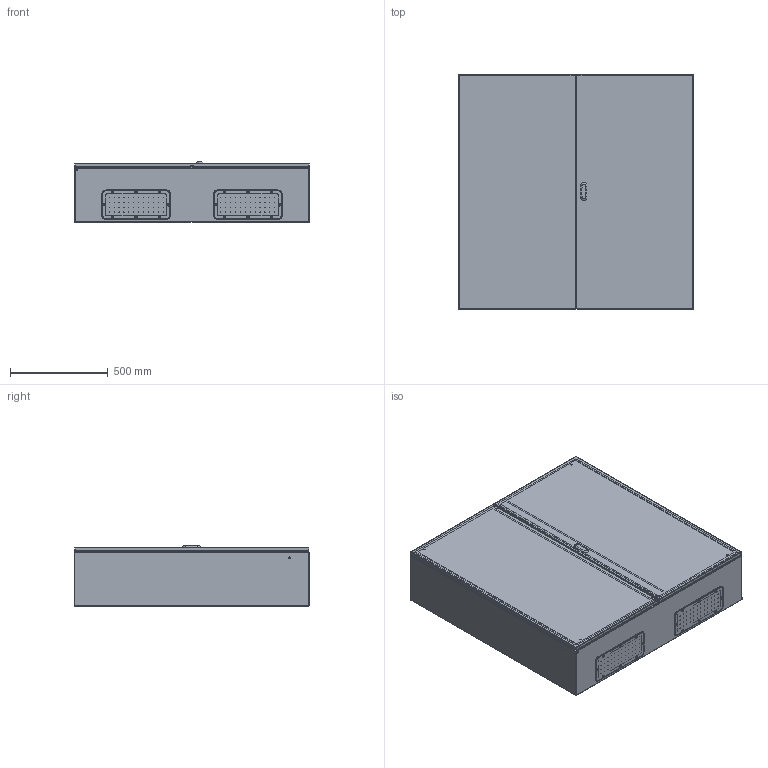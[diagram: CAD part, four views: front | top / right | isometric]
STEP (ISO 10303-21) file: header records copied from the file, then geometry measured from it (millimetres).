
FILE_DESCRIPTION(/* description */ ('STEP AP214'),/* implementation_level */ '2;1');
FILE_NAME(/* name */ 'EC121230-LOD400',/* time_stamp */ '2025-08-01T14:52:07+02:00',/* author */ ('License CC BY-ND 4.0'),/* organization */ ('CADENAS'),/* preprocessor_version */ 'ST-DEVELOPER v19.3',/* originating_system */ 'PARTsolutions',/* authorisation */ ' ');
FILE_SCHEMA (('AUTOMOTIVE_DESIGN {1 0 10303 214 3 1 1}'));
Length unit declared in the file: millimetre
Products named in the file (6): EC121230-LOD400; EC121230-LOD400_cabinet; EC121230-LOD400_door_l; EC121230-LOD400_door_r; EC121230-LOD400_bottomplate; EC121230-LOD400_plate
Assembly tree (6 placements, depth 2):
  EC121230-LOD400
    EC121230-LOD400_cabinet
    EC121230-LOD400_door_l
    EC121230-LOD400_door_r
    EC121230-LOD400_bottomplate  x2
    EC121230-LOD400_plate
Bounding box: 1200 x 1204 x 307 mm (x, y, z)
Volume: 11113327.6 mm3; surface area: 12154420.2 mm2
Topology: 6 solids, 6 shells, 970 faces, 2508 edges, 1678 vertices
Faces by surface type: cylinder 455, plane 351, cone 82, torus 82
Full cylindrical faces by diameter (mm): 1 x96, 4.5 x196, 5.5 x12, 6 x6, 7 x4, 8 x14, 10 x10, 14 x4
Entity records: 22295 total; most frequent: DIRECTION 4002, CARTESIAN_POINT 3571, ORIENTED_EDGE 3092, AXIS2_PLACEMENT_3D 1687, EDGE_LOOP 1658, FACE_BOUND 1658, EDGE_CURVE 1546, VERTEX_POINT 1214
